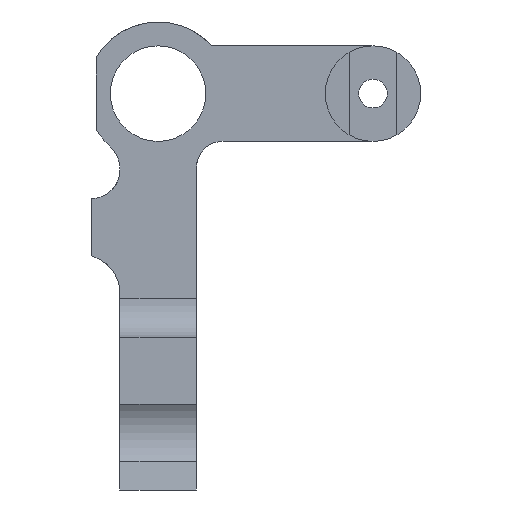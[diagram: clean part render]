
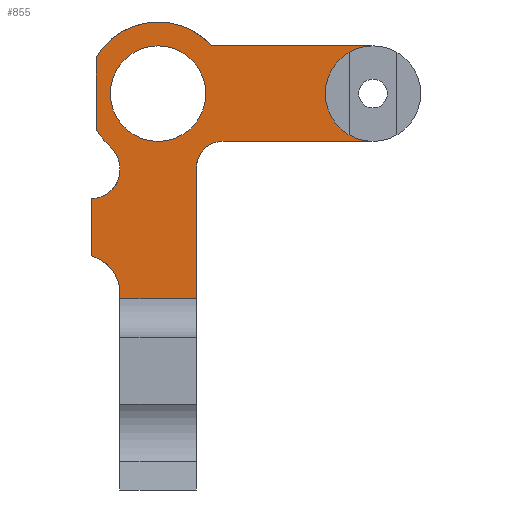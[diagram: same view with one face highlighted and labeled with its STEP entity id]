
A CAD part, left-side view. The second image highlights one B-rep face of the part: STEP entity #855.
In plain terms, the highlighted planar face has unit normal (-1, 0, 0).
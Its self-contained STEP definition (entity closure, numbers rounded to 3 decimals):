
#3 = CARTESIAN_POINT ( 'NONE',  ( 14., 7., -8. ) ) ;
#4 = FACE_BOUND ( 'NONE', #993, .T. ) ;
#29 = DIRECTION ( 'NONE',  ( 0., 0., 1. ) ) ;
#35 = ORIENTED_EDGE ( 'NONE', *, *, #1039, .T. ) ;
#36 = VECTOR ( 'NONE', #886, 1000. ) ;
#38 = CARTESIAN_POINT ( 'NONE',  ( 14., 4., -7.826 ) ) ;
#66 = DIRECTION ( 'NONE',  ( -1., 0., 0. ) ) ;
#78 = VERTEX_POINT ( 'NONE', #1012 ) ;
#82 = CARTESIAN_POINT ( 'NONE',  ( 14., 4., -8. ) ) ;
#90 = EDGE_CURVE ( 'NONE', #232, #1146, #188, .T. ) ;
#95 = CIRCLE ( 'NONE', #1180, 3. ) ;
#97 = EDGE_CURVE ( 'NONE', #1307, #765, #1173, .T. ) ;
#101 = ORIENTED_EDGE ( 'NONE', *, *, #90, .T. ) ;
#102 = ORIENTED_EDGE ( 'NONE', *, *, #177, .T. ) ;
#104 = CARTESIAN_POINT ( 'NONE',  ( 14., 4., -20.873 ) ) ;
#113 = CIRCLE ( 'NONE', #828, 3. ) ;
#117 = DIRECTION ( 'NONE',  ( 0., -0.745, 0.667 ) ) ;
#128 = DIRECTION ( 'NONE',  ( 0., 0.623, 0.782 ) ) ;
#134 = ORIENTED_EDGE ( 'NONE', *, *, #214, .T. ) ;
#145 = CARTESIAN_POINT ( 'NONE',  ( 14., 7., -7.826 ) ) ;
#150 = VERTEX_POINT ( 'NONE', #586 ) ;
#159 = EDGE_CURVE ( 'NONE', #1293, #1205, #410, .T. ) ;
#177 = EDGE_CURVE ( 'NONE', #150, #558, #455, .T. ) ;
#188 = CIRCLE ( 'NONE', #1244, 7.5 ) ;
#192 = CARTESIAN_POINT ( 'NONE',  ( 14., 6.5, 3.742 ) ) ;
#193 = ORIENTED_EDGE ( 'NONE', *, *, #1026, .T. ) ;
#200 = LINE ( 'NONE', #956, #222 ) ;
#212 = CARTESIAN_POINT ( 'NONE',  ( 14., -5.59, 5. ) ) ;
#214 = EDGE_CURVE ( 'NONE', #1146, #1234, #113, .T. ) ;
#222 = VECTOR ( 'NONE', #630, 1000. ) ;
#232 = VERTEX_POINT ( 'NONE', #1354 ) ;
#253 = DIRECTION ( 'NONE',  ( 1., 0., 0. ) ) ;
#266 = EDGE_CURVE ( 'NONE', #1205, #1293, #1206, .T. ) ;
#296 = AXIS2_PLACEMENT_3D ( 'NONE', #704, #674, #360 ) ;
#299 = DIRECTION ( 'NONE',  ( 0., 1., 0. ) ) ;
#312 = CIRCLE ( 'NONE', #1261, 3. ) ;
#318 = EDGE_CURVE ( 'NONE', #520, #954, #609, .T. ) ;
#351 = DIRECTION ( 'NONE',  ( -1., 0., 0. ) ) ;
#360 = DIRECTION ( 'NONE',  ( 0., -0.25, 0.968 ) ) ;
#385 = ORIENTED_EDGE ( 'NONE', *, *, #1237, .T. ) ;
#387 = ORIENTED_EDGE ( 'NONE', *, *, #444, .F. ) ;
#410 = CIRCLE ( 'NONE', #906, 5. ) ;
#419 = PLANE ( 'NONE',  #782 ) ;
#425 = ORIENTED_EDGE ( 'NONE', *, *, #1329, .T. ) ;
#433 = CARTESIAN_POINT ( 'NONE',  ( 14., 5., 0. ) ) ;
#434 = ORIENTED_EDGE ( 'NONE', *, *, #159, .F. ) ;
#444 = EDGE_CURVE ( 'NONE', #1308, #558, #607, .T. ) ;
#450 = VERTEX_POINT ( 'NONE', #812 ) ;
#455 = LINE ( 'NONE', #877, #36 ) ;
#462 = LINE ( 'NONE', #670, #545 ) ;
#487 = CARTESIAN_POINT ( 'NONE',  ( 14., 0., 0. ) ) ;
#499 = CARTESIAN_POINT ( 'NONE',  ( 14., 7., -17. ) ) ;
#504 = CARTESIAN_POINT ( 'NONE',  ( 14., -4., -21.5 ) ) ;
#506 = CIRCLE ( 'NONE', #1232, 7.5 ) ;
#511 = ORIENTED_EDGE ( 'NONE', *, *, #667, .T. ) ;
#515 = CARTESIAN_POINT ( 'NONE',  ( 14., -8., 14.5 ) ) ;
#516 = EDGE_CURVE ( 'NONE', #520, #1234, #1035, .T. ) ;
#520 = VERTEX_POINT ( 'NONE', #1071 ) ;
#526 = EDGE_CURVE ( 'NONE', #619, #78, #312, .T. ) ;
#528 = DIRECTION ( 'NONE',  ( 0., 0.867, -0.499 ) ) ;
#532 = CARTESIAN_POINT ( 'NONE',  ( 14., 4., -21.5 ) ) ;
#545 = VECTOR ( 'NONE', #891, 1000. ) ;
#558 = VERTEX_POINT ( 'NONE', #1279 ) ;
#573 = ORIENTED_EDGE ( 'NONE', *, *, #97, .F. ) ;
#574 = DIRECTION ( 'NONE',  ( 1., 0., 0. ) ) ;
#586 = CARTESIAN_POINT ( 'NONE',  ( 14., -6.801, -5. ) ) ;
#589 = VERTEX_POINT ( 'NONE', #212 ) ;
#606 = LINE ( 'NONE', #504, #1358 ) ;
#607 = CIRCLE ( 'NONE', #787, 5. ) ;
#609 = CIRCLE ( 'NONE', #720, 3. ) ;
#619 = VERTEX_POINT ( 'NONE', #1159 ) ;
#630 = DIRECTION ( 'NONE',  ( 0., 0., 1. ) ) ;
#641 = FACE_OUTER_BOUND ( 'NONE', #833, .T. ) ;
#645 = LINE ( 'NONE', #1097, #1157 ) ;
#667 = EDGE_CURVE ( 'NONE', #1076, #765, #902, .T. ) ;
#670 = CARTESIAN_POINT ( 'NONE',  ( 14., 7., -11. ) ) ;
#673 = DIRECTION ( 'NONE',  ( 0., 1., 0. ) ) ;
#674 = DIRECTION ( 'NONE',  ( 1., 0., 0. ) ) ;
#704 = CARTESIAN_POINT ( 'NONE',  ( 14., 8., -20.873 ) ) ;
#720 = AXIS2_PLACEMENT_3D ( 'NONE', #3, #861, #1363 ) ;
#727 = EDGE_CURVE ( 'NONE', #450, #1307, #606, .T. ) ;
#733 = VECTOR ( 'NONE', #1194, 1000. ) ;
#753 = DIRECTION ( 'NONE',  ( 1., 0., 0. ) ) ;
#765 = VERTEX_POINT ( 'NONE', #104 ) ;
#782 = AXIS2_PLACEMENT_3D ( 'NONE', #515, #864, #943 ) ;
#783 = ORIENTED_EDGE ( 'NONE', *, *, #727, .F. ) ;
#787 = AXIS2_PLACEMENT_3D ( 'NONE', #929, #66, #798 ) ;
#798 = DIRECTION ( 'NONE',  ( 0., 0., 1. ) ) ;
#812 = CARTESIAN_POINT ( 'NONE',  ( 14., -4., -21.5 ) ) ;
#825 = CARTESIAN_POINT ( 'NONE',  ( 14., 0., 0. ) ) ;
#828 = AXIS2_PLACEMENT_3D ( 'NONE', #145, #574, #997 ) ;
#833 = EDGE_LOOP ( 'NONE', ( #1019, #1189, #193, #102, #387, #35, #425, #1346, #101, #134, #1133, #1144, #385, #511, #573, #783 ) ) ;
#837 = EDGE_CURVE ( 'NONE', #232, #843, #200, .T. ) ;
#843 = VERTEX_POINT ( 'NONE', #192 ) ;
#855 = ADVANCED_FACE ( 'NONE', ( #4, #641 ), #419, .F. ) ;
#856 = DIRECTION ( 'NONE',  ( 0., 1., 0. ) ) ;
#861 = DIRECTION ( 'NONE',  ( 1., 0., 0. ) ) ;
#863 = CARTESIAN_POINT ( 'NONE',  ( 14., 4., -21.5 ) ) ;
#864 = DIRECTION ( 'NONE',  ( 1., 0., 0. ) ) ;
#877 = CARTESIAN_POINT ( 'NONE',  ( 14., -6.801, -5. ) ) ;
#878 = CARTESIAN_POINT ( 'NONE',  ( 14., -22.5, 5. ) ) ;
#886 = DIRECTION ( 'NONE',  ( 0., -1., 0. ) ) ;
#891 = DIRECTION ( 'NONE',  ( 0., 0., -1. ) ) ;
#902 = CIRCLE ( 'NONE', #296, 4. ) ;
#906 = AXIS2_PLACEMENT_3D ( 'NONE', #487, #351, #1099 ) ;
#910 = CARTESIAN_POINT ( 'NONE',  ( 14., 5., -5.59 ) ) ;
#929 = CARTESIAN_POINT ( 'NONE',  ( 14., -22.5, 0. ) ) ;
#943 = DIRECTION ( 'NONE',  ( 0., 1., 0. ) ) ;
#954 = VERTEX_POINT ( 'NONE', #1303 ) ;
#956 = CARTESIAN_POINT ( 'NONE',  ( 14., 6.5, -3.742 ) ) ;
#970 = CARTESIAN_POINT ( 'NONE',  ( 14., 0., 0. ) ) ;
#978 = LINE ( 'NONE', #878, #1357 ) ;
#981 = CARTESIAN_POINT ( 'NONE',  ( 14., -7., -7.826 ) ) ;
#993 = EDGE_LOOP ( 'NONE', ( #1287, #434 ) ) ;
#997 = DIRECTION ( 'NONE',  ( 0., -0.667, 0.745 ) ) ;
#1012 = CARTESIAN_POINT ( 'NONE',  ( 14., -4.931, -5.654 ) ) ;
#1019 = ORIENTED_EDGE ( 'NONE', *, *, #1204, .T. ) ;
#1026 = EDGE_CURVE ( 'NONE', #78, #150, #95, .T. ) ;
#1035 = LINE ( 'NONE', #82, #733 ) ;
#1037 = DIRECTION ( 'NONE',  ( -1., 0., 0. ) ) ;
#1039 = EDGE_CURVE ( 'NONE', #1308, #589, #978, .T. ) ;
#1071 = CARTESIAN_POINT ( 'NONE',  ( 14., 4., -8. ) ) ;
#1076 = VERTEX_POINT ( 'NONE', #499 ) ;
#1077 = DIRECTION ( 'NONE',  ( 0., 0., 1. ) ) ;
#1097 = CARTESIAN_POINT ( 'NONE',  ( 14., -4., -21.5 ) ) ;
#1099 = DIRECTION ( 'NONE',  ( 0., -1., 0. ) ) ;
#1116 = VECTOR ( 'NONE', #1077, 1000. ) ;
#1133 = ORIENTED_EDGE ( 'NONE', *, *, #516, .F. ) ;
#1135 = CARTESIAN_POINT ( 'NONE',  ( 14., 0., 0. ) ) ;
#1144 = ORIENTED_EDGE ( 'NONE', *, *, #318, .T. ) ;
#1146 = VERTEX_POINT ( 'NONE', #910 ) ;
#1149 = DIRECTION ( 'NONE',  ( -1., 0., 0. ) ) ;
#1157 = VECTOR ( 'NONE', #29, 1000. ) ;
#1159 = CARTESIAN_POINT ( 'NONE',  ( 14., -4., -7.826 ) ) ;
#1173 = LINE ( 'NONE', #863, #1116 ) ;
#1180 = AXIS2_PLACEMENT_3D ( 'NONE', #1310, #253, #128 ) ;
#1189 = ORIENTED_EDGE ( 'NONE', *, *, #526, .T. ) ;
#1194 = DIRECTION ( 'NONE',  ( 0., 0., 1. ) ) ;
#1204 = EDGE_CURVE ( 'NONE', #450, #619, #645, .T. ) ;
#1205 = VERTEX_POINT ( 'NONE', #433 ) ;
#1206 = CIRCLE ( 'NONE', #1317, 5. ) ;
#1232 = AXIS2_PLACEMENT_3D ( 'NONE', #825, #1240, #117 ) ;
#1234 = VERTEX_POINT ( 'NONE', #38 ) ;
#1236 = DIRECTION ( 'NONE',  ( 0., 1., 0. ) ) ;
#1237 = EDGE_CURVE ( 'NONE', #954, #1076, #462, .T. ) ;
#1240 = DIRECTION ( 'NONE',  ( -1., 0., 0. ) ) ;
#1244 = AXIS2_PLACEMENT_3D ( 'NONE', #970, #1149, #528 ) ;
#1259 = CARTESIAN_POINT ( 'NONE',  ( 14., -5., 0. ) ) ;
#1261 = AXIS2_PLACEMENT_3D ( 'NONE', #981, #753, #856 ) ;
#1279 = CARTESIAN_POINT ( 'NONE',  ( 14., -22.5, -5. ) ) ;
#1287 = ORIENTED_EDGE ( 'NONE', *, *, #266, .F. ) ;
#1293 = VERTEX_POINT ( 'NONE', #1259 ) ;
#1303 = CARTESIAN_POINT ( 'NONE',  ( 14., 7., -11. ) ) ;
#1307 = VERTEX_POINT ( 'NONE', #532 ) ;
#1308 = VERTEX_POINT ( 'NONE', #1348 ) ;
#1310 = CARTESIAN_POINT ( 'NONE',  ( 14., -6.801, -8. ) ) ;
#1317 = AXIS2_PLACEMENT_3D ( 'NONE', #1135, #1037, #299 ) ;
#1329 = EDGE_CURVE ( 'NONE', #589, #843, #506, .T. ) ;
#1346 = ORIENTED_EDGE ( 'NONE', *, *, #837, .F. ) ;
#1348 = CARTESIAN_POINT ( 'NONE',  ( 14., -22.5, 5. ) ) ;
#1354 = CARTESIAN_POINT ( 'NONE',  ( 14., 6.5, -3.742 ) ) ;
#1357 = VECTOR ( 'NONE', #673, 1000. ) ;
#1358 = VECTOR ( 'NONE', #1236, 1000. ) ;
#1363 = DIRECTION ( 'NONE',  ( 0., -1., 0. ) ) ;
